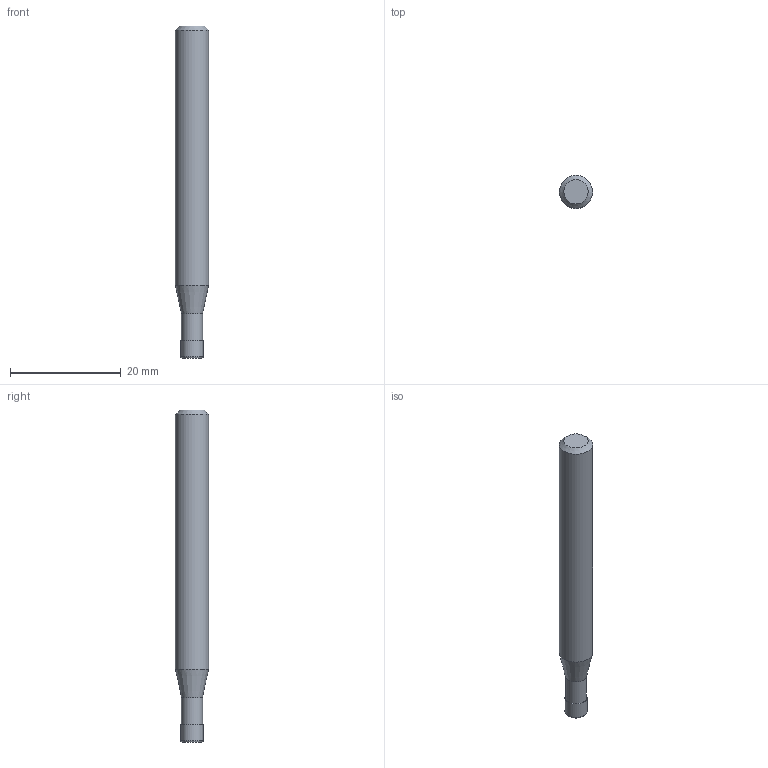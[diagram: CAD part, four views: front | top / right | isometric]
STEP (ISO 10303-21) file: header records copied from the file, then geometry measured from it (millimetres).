
FILE_DESCRIPTION((''),'2;1');
FILE_NAME('C:\Users\nsx150\AppData\Local\Temp\Mastercam 2021\3SYKECWX22\TEMP.step','2021-04-22T09:51:21',(''),(''),'STEP Write','Mastercam 2021 ... CNC Software, Inc.','');
FILE_SCHEMA(('AUTOMOTIVE_DESIGN'));
Length unit declared in the file: millimetre
Products named in the file (1): None
Bounding box: 6 x 6 x 60 mm (x, y, z)
Volume: 1512.2 mm3; surface area: 1115.6 mm2
Topology: 2 solids, 2 shells, 10 faces, 14 edges, 8 vertices
Faces by surface type: plane 4, cylinder 3, cone 2, torus 1
Full cylindrical faces by diameter (mm): 3.8 x1, 4 x1, 6 x1
Entity records: 232 total; most frequent: DIRECTION 40, CARTESIAN_POINT 28, AXIS2_PLACEMENT_3D 20, ORIENTED_EDGE 16, EDGE_LOOP 16, STYLED_ITEM 13, ADVANCED_FACE 10, FACE_BOUND 10
